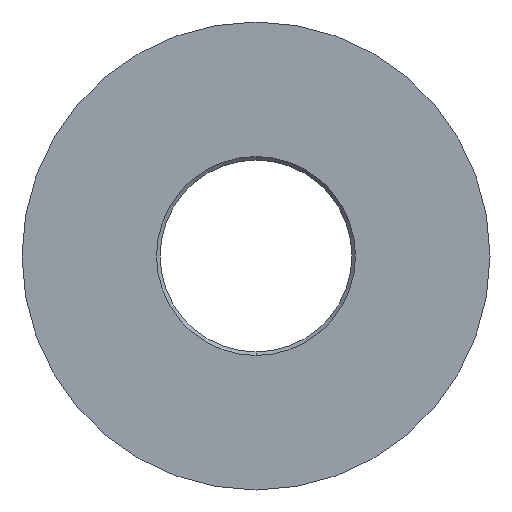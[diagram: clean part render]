
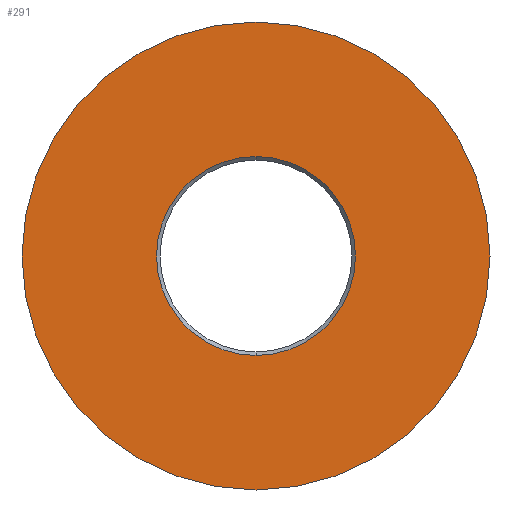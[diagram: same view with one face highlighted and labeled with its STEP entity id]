
A CAD part, front view. The second image highlights one B-rep face of the part: STEP entity #291.
In plain terms, the highlighted planar face has unit normal (0, -1, 0).
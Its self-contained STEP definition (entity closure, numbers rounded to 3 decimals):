
#15 = CARTESIAN_POINT ( 'NONE',  ( 0., -7., 4.25 ) ) ;
#24 = EDGE_CURVE ( 'NONE', #274, #175, #199, .T. ) ;
#29 = DIRECTION ( 'NONE',  ( 0., 1., 0. ) ) ;
#31 = CIRCLE ( 'NONE', #183, 4.25 ) ;
#38 = CARTESIAN_POINT ( 'NONE',  ( 0., -7., 10. ) ) ;
#43 = EDGE_CURVE ( 'NONE', #175, #274, #351, .T. ) ;
#59 = EDGE_CURVE ( 'NONE', #213, #186, #31, .T. ) ;
#61 = DIRECTION ( 'NONE',  ( 0., 0., -1. ) ) ;
#62 = ORIENTED_EDGE ( 'NONE', *, *, #24, .T. ) ;
#65 = CIRCLE ( 'NONE', #125, 4.25 ) ;
#91 = DIRECTION ( 'NONE',  ( 0., -1., 0. ) ) ;
#96 = CARTESIAN_POINT ( 'NONE',  ( 0., -7., 0. ) ) ;
#113 = DIRECTION ( 'NONE',  ( 0., -1., 0. ) ) ;
#117 = ORIENTED_EDGE ( 'NONE', *, *, #176, .F. ) ;
#125 = AXIS2_PLACEMENT_3D ( 'NONE', #204, #198, #129 ) ;
#126 = DIRECTION ( 'NONE',  ( 0., 0., 1. ) ) ;
#129 = DIRECTION ( 'NONE',  ( 0., 0., -1. ) ) ;
#133 = CARTESIAN_POINT ( 'NONE',  ( -4.25, -7., 0. ) ) ;
#136 = EDGE_LOOP ( 'NONE', ( #62, #145 ) ) ;
#140 = CARTESIAN_POINT ( 'NONE',  ( 0., -7., 0. ) ) ;
#145 = ORIENTED_EDGE ( 'NONE', *, *, #43, .T. ) ;
#155 = DIRECTION ( 'NONE',  ( 0., 0., -1. ) ) ;
#156 = CARTESIAN_POINT ( 'NONE',  ( 0., -7., -10. ) ) ;
#173 = PLANE ( 'NONE',  #194 ) ;
#175 = VERTEX_POINT ( 'NONE', #38 ) ;
#176 = EDGE_CURVE ( 'NONE', #186, #213, #65, .T. ) ;
#183 = AXIS2_PLACEMENT_3D ( 'NONE', #374, #324, #61 ) ;
#186 = VERTEX_POINT ( 'NONE', #334 ) ;
#194 = AXIS2_PLACEMENT_3D ( 'NONE', #133, #29, #126 ) ;
#198 = DIRECTION ( 'NONE',  ( 0., -1., 0. ) ) ;
#199 = CIRCLE ( 'NONE', #206, 10. ) ;
#200 = EDGE_LOOP ( 'NONE', ( #117, #327 ) ) ;
#204 = CARTESIAN_POINT ( 'NONE',  ( 0., -7., 0. ) ) ;
#206 = AXIS2_PLACEMENT_3D ( 'NONE', #96, #91, #155 ) ;
#213 = VERTEX_POINT ( 'NONE', #15 ) ;
#238 = AXIS2_PLACEMENT_3D ( 'NONE', #140, #113, #366 ) ;
#270 = FACE_OUTER_BOUND ( 'NONE', #136, .T. ) ;
#274 = VERTEX_POINT ( 'NONE', #156 ) ;
#286 = FACE_BOUND ( 'NONE', #200, .T. ) ;
#291 = ADVANCED_FACE ( 'NONE', ( #286, #270 ), #173, .F. ) ;
#324 = DIRECTION ( 'NONE',  ( 0., -1., 0. ) ) ;
#327 = ORIENTED_EDGE ( 'NONE', *, *, #59, .F. ) ;
#334 = CARTESIAN_POINT ( 'NONE',  ( 0., -7., -4.25 ) ) ;
#351 = CIRCLE ( 'NONE', #238, 10. ) ;
#366 = DIRECTION ( 'NONE',  ( 0., 0., -1. ) ) ;
#374 = CARTESIAN_POINT ( 'NONE',  ( 0., -7., 0. ) ) ;
